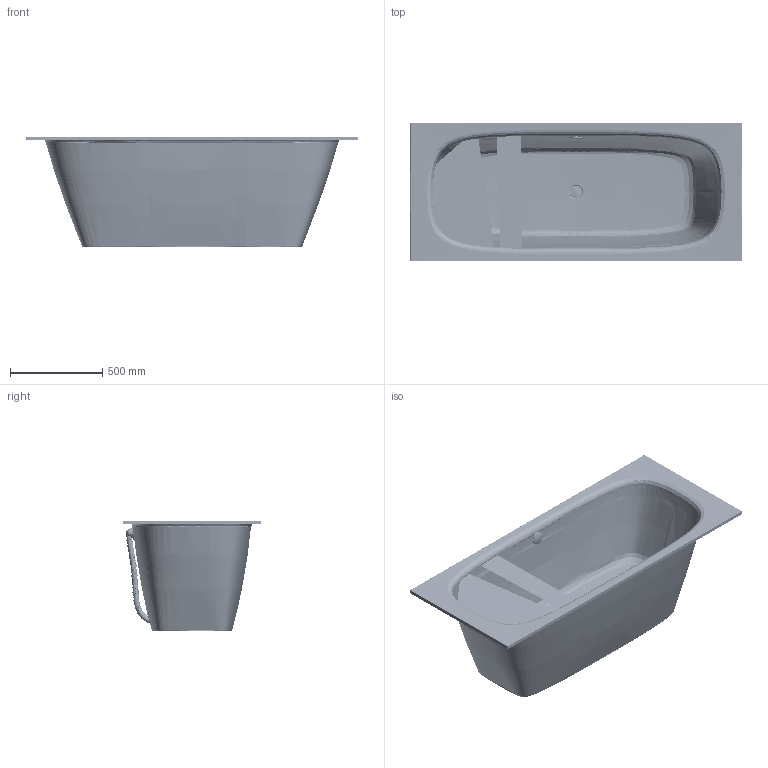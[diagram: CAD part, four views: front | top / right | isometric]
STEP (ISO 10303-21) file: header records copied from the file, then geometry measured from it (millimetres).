
FILE_DESCRIPTION (( 'STEP AP214' ), '1' );
FILE_NAME ('PAA-Baths-Cast-Stone-Smart-180-1800x750xh600-VASMA180-XX-3D.STEP', '2026-10-13T05:05:35', ( 'PC Lite' ), ( '' ), 'SwSTEP 2.0', 'SolidWorks 2018', '' );
FILE_SCHEMA (( 'AUTOMOTIVE_DESIGN' ));
Length unit declared in the file: millimetre
Products named in the file (21): Êîïèÿ PamatneKajai_Smart^Êîïèÿ KK60_PAA-Baths-Cast-Stone-Smart-180-1800x750xh600-VASMA180-XX-3D_pb; Êîïèÿ SIFVPAA80-iekspuse-vacins-apaksa pamatne-gumija-01^SIF-SIFVPAA80-komplekts-Smart_PAA-Baths-Cast-Stone-Smart-180-1800x750xh600-VASMA180-XX-3D; Êîïèÿ SIFVPAA80-iekspuse-vacins-apaksa-liela-detala^SIF-SIFVPAA80-komplekts-Smart_PAA-Baths-Cast-Stone-Smart-180-1800x750xh600-VASMA180-XX-3D; Êîïèÿ KAJ-DP-60_Smart^Êîïèÿ KK60_PAA-Baths-Cast-Stone-Smart-180-1800x750xh600-VASMA180-XX-3D; Êîïèÿ SIFVPAA80-iekspuse-apaksa-trubu-uzgrieznis-universalais^SIF-SIFVPAA80-komplekts-Smart_PAA-Baths-Cast-Stone-Smart-180-1800x750xh600-VASMA180-XX-3D; CAULA-Vanna-Cast-stone-Smart-180-CVSMART180-XX-3D; Êîïèÿ DIN976-1_vitnstienis_M12_L=90_Smart^Êîïèÿ KK60_PAA-Baths-Cast-Stone-Smart-180-1800x750xh600-VASMA180-XX-3D; Êîïèÿ SIFVPAA80-iekspuse-vacins-augsa-pamatne-skruvei^SIF-SIFVPAA80-komplekts-Smart_PAA-Baths-Cast-Stone-Smart-180-1800x750xh600-VASMA180-XX-3D; Êîïèÿ SIFVPAA80-iekspuse-apaksa-trubu-uzgrieznis-mazaks-universalais^SIF-SIFVPAA80-komplekts-Smart_PAA-Baths-Cast-Stone-Smart-180-1800x750xh600-VASMA180-XX-3D; Êîïèÿ SIFVPAA80-iekspuse-vacins-apaksa-parpludes-truba^SIF-SIFVPAA80-komplekts-Smart_PAA-Baths-Cast-Stone-Smart-180-1800x750xh600-VASMA180-XX-3D; Êîïèÿ SIFVPAA80-iekspuse-vacins-apaksa-parplude^SIF-SIFVPAA80-komplekts-Smart_PAA-Baths-Cast-Stone-Smart-180-1800x750xh600-VASMA180-XX-3D; SIF-SIFVPAA80-komplekts-Smart^PAA-Baths-Cast-Stone-Smart-180-1800x750xh600-VASMA180-XX-3D; PAA-Baths-Cast-Stone-Smart-180-1800x750xh600-VASMA180-XX-3D; Êîïèÿ SIFVPAA80-iekspuse-vacins-augsa^SIF-SIFVPAA80-komplekts-Smart_PAA-Baths-Cast-Stone-Smart-180-1800x750xh600-VASMA180-XX-3D; Êîïèÿ SIFVPAA80-iekspuse-vacins-augsa-skruve^SIF-SIFVPAA80-komplekts-Smart_PAA-Baths-Cast-Stone-Smart-180-1800x750xh600-VASMA180-XX-3D; Êîïèÿ SIFVPAA80-arpuses-truba^SIF-SIFVPAA80-komplekts-Smart_PAA-Baths-Cast-Stone-Smart-180-1800x750xh600-VASMA180-XX-3D; Vitne^SIF-SIFVPAA80-komplekts-Smart_PAA-Baths-Cast-Stone-Smart-180-1800x750xh600-VASMA180-XX-3D; PAA-Baths-Cast-Stone-Smart-180-1800x750xh600-VASMA180-XX-3D-CAULA; Êîïèÿ KK60^PAA-Baths-Cast-Stone-Smart-180-1800x750xh600-VASMA180-XX-3D; Chrome^SIF-SIFVPAA80-komplekts-Smart_PAA-Baths-Cast-Stone-Smart-180-1800x750xh600-VASMA180-XX-3D; VACINS^SIF-SIFVPAA80-komplekts-Smart_PAA-Baths-Cast-Stone-Smart-180-1800x750xh600-VASMA180-XX-3D
Assembly tree (24 placements, depth 3):
  PAA-Baths-Cast-Stone-Smart-180-1800x750xh600-VASMA180-XX-3D
    SIF-SIFVPAA80-komplekts-Smart^PAA-Baths-Cast-Stone-Smart-180-1800x750xh600-VASMA180-XX-3D
      Êîïèÿ SIFVPAA80-iekspuse-vacins-apaksa-parplude^SIF-SIFVPAA80-komplekts-Smart_PAA-Baths-Cast-Stone-Smart-180-1800x750xh600-VASMA180-XX-3D
      Êîïèÿ SIFVPAA80-iekspuse-vacins-apaksa-parpludes-truba^SIF-SIFVPAA80-komplekts-Smart_PAA-Baths-Cast-Stone-Smart-180-1800x750xh600-VASMA180-XX-3D
      Êîïèÿ SIFVPAA80-iekspuse-apaksa-trubu-uzgrieznis-universalais^SIF-SIFVPAA80-komplekts-Smart_PAA-Baths-Cast-Stone-Smart-180-1800x750xh600-VASMA180-XX-3D
      Êîïèÿ SIFVPAA80-iekspuse-vacins-apaksa-liela-detala^SIF-SIFVPAA80-komplekts-Smart_PAA-Baths-Cast-Stone-Smart-180-1800x750xh600-VASMA180-XX-3D
      Êîïèÿ SIFVPAA80-iekspuse-vacins-apaksa pamatne-gumija-01^SIF-SIFVPAA80-komplekts-Smart_PAA-Baths-Cast-Stone-Smart-180-1800x750xh600-VASMA180-XX-3D  x2
      Vitne^SIF-SIFVPAA80-komplekts-Smart_PAA-Baths-Cast-Stone-Smart-180-1800x750xh600-VASMA180-XX-3D
      VACINS^SIF-SIFVPAA80-komplekts-Smart_PAA-Baths-Cast-Stone-Smart-180-1800x750xh600-VASMA180-XX-3D
      Chrome^SIF-SIFVPAA80-komplekts-Smart_PAA-Baths-Cast-Stone-Smart-180-1800x750xh600-VASMA180-XX-3D
      Êîïèÿ SIFVPAA80-iekspuse-vacins-augsa-pamatne-skruvei^SIF-SIFVPAA80-komplekts-Smart_PAA-Baths-Cast-Stone-Smart-180-1800x750xh600-VASMA180-XX-3D
      Êîïèÿ SIFVPAA80-iekspuse-vacins-augsa^SIF-SIFVPAA80-komplekts-Smart_PAA-Baths-Cast-Stone-Smart-180-1800x750xh600-VASMA180-XX-3D
      Êîïèÿ SIFVPAA80-iekspuse-vacins-augsa-skruve^SIF-SIFVPAA80-komplekts-Smart_PAA-Baths-Cast-Stone-Smart-180-1800x750xh600-VASMA180-XX-3D
      Êîïèÿ SIFVPAA80-arpuses-truba^SIF-SIFVPAA80-komplekts-Smart_PAA-Baths-Cast-Stone-Smart-180-1800x750xh600-VASMA180-XX-3D
      Êîïèÿ SIFVPAA80-iekspuse-apaksa-trubu-uzgrieznis-mazaks-universalais^SIF-SIFVPAA80-komplekts-Smart_PAA-Baths-Cast-Stone-Smart-180-1800x750xh600-VASMA180-XX-3D
    Êîïèÿ KK60^PAA-Baths-Cast-Stone-Smart-180-1800x750xh600-VASMA180-XX-3D  x4
      Êîïèÿ PamatneKajai_Smart^Êîïèÿ KK60_PAA-Baths-Cast-Stone-Smart-180-1800x750xh600-VASMA180-XX-3D_pb
      Êîïèÿ DIN976-1_vitnstienis_M12_L=90_Smart^Êîïèÿ KK60_PAA-Baths-Cast-Stone-Smart-180-1800x750xh600-VASMA180-XX-3D
      Êîïèÿ KAJ-DP-60_Smart^Êîïèÿ KK60_PAA-Baths-Cast-Stone-Smart-180-1800x750xh600-VASMA180-XX-3D
    PAA-Baths-Cast-Stone-Smart-180-1800x750xh600-VASMA180-XX-3D-CAULA
      CAULA-Vanna-Cast-stone-Smart-180-CVSMART180-XX-3D
Bounding box: 1797.74 x 749.13 x 600.07 mm (x, y, z)
Volume: 45916952.4 mm3; surface area: 6707037.8 mm2
Topology: 246 solids, 246 shells, 3954 faces, 8645 edges, 5225 vertices
Faces by surface type: cylinder 1543, torus 1003, plane 779, bspline 480, cone 116, sphere 33
Entity records: 215120 total; most frequent: CARTESIAN_POINT 130839, DIRECTION 17096, ORIENTED_EDGE 15338, AXIS2_PLACEMENT_3D 7701, EDGE_CURVE 7669, VERTEX_POINT 4619, CIRCLE 4565, EDGE_LOOP 4064
